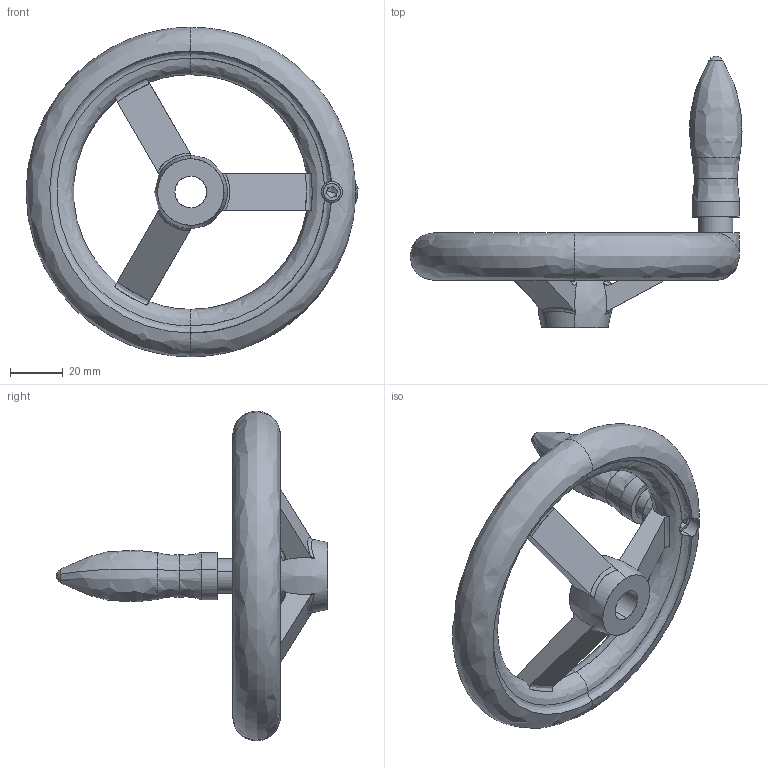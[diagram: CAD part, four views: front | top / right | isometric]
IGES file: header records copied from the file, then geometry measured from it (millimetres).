
Start section: SolidWorks IGES file using analytic representation for surfaces
Global section: file name: C:\Users\IanO\Desktop\Temp File\Process pending\77120_v2\77120_v2_20171108_IGES\77120.W0210.igs; native system: SolidWorks 2017; preprocessor: SolidWorks 2017; author: IanO; date: 171108.083326; units: millimetre
Bounding box: 125.92 x 103 x 125 mm (x, y, z)
Surface area: 33785.4 mm2 (no closed solid volume)
Topology: 0 solids, 0 shells, 144 faces, 1815 edges, 1806 vertices
Faces by surface type: bspline 82, revolution 62
